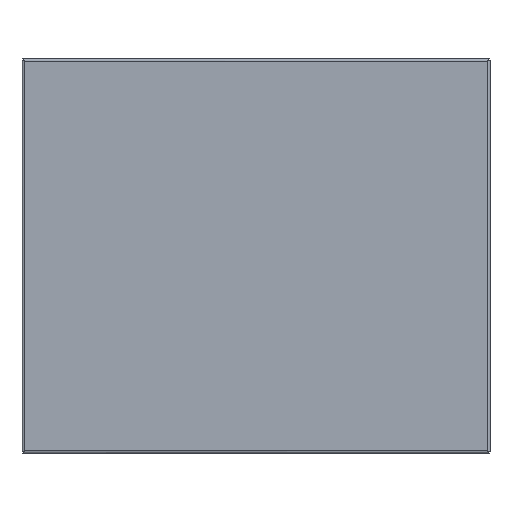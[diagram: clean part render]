
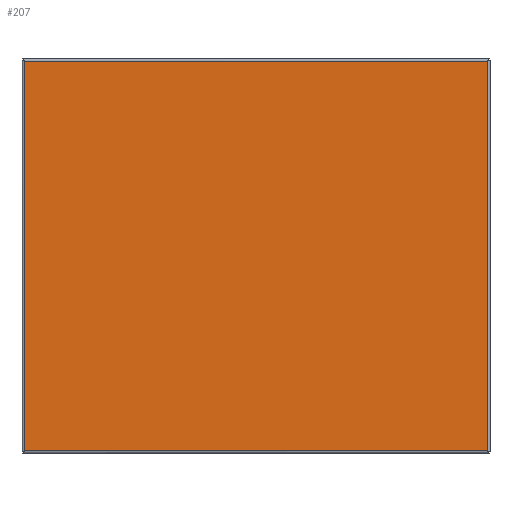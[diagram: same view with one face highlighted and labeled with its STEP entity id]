
A CAD part, front view. The second image highlights one B-rep face of the part: STEP entity #207.
In plain terms, the highlighted planar face has unit normal (0, -1, 0).
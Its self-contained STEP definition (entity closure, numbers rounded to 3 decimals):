
#70 = ORIENTED_EDGE ( 'NONE', *, *, #5171, .F. ) ;
#106 = DIRECTION ( 'NONE',  ( 0., 0., 1. ) ) ;
#207 = ADVANCED_FACE ( 'NONE', ( #5282 ), #5751, .F. ) ;
#728 = VECTOR ( 'NONE', #106, 1000. ) ;
#735 = LINE ( 'NONE', #2816, #728 ) ;
#1085 = EDGE_CURVE ( 'NONE', #5558, #2231, #4397, .T. ) ;
#1206 = AXIS2_PLACEMENT_3D ( 'NONE', #4066, #3973, #2287 ) ;
#1303 = VECTOR ( 'NONE', #3188, 1000. ) ;
#1315 = LINE ( 'NONE', #2709, #1303 ) ;
#1481 = CARTESIAN_POINT ( 'NONE',  ( 0., 0., -247. ) ) ;
#1498 = DIRECTION ( 'NONE',  ( -1., 0., 0. ) ) ;
#1704 = CARTESIAN_POINT ( 'NONE',  ( 293.5, 0., -247. ) ) ;
#1712 = CARTESIAN_POINT ( 'NONE',  ( 0., 0., 247. ) ) ;
#1968 = LINE ( 'NONE', #1712, #1995 ) ;
#1995 = VECTOR ( 'NONE', #4061, 1000. ) ;
#2016 = EDGE_LOOP ( 'NONE', ( #5190, #4210, #3838, #70 ) ) ;
#2209 = CARTESIAN_POINT ( 'NONE',  ( -293.5, 0., 247. ) ) ;
#2231 = VERTEX_POINT ( 'NONE', #2499 ) ;
#2287 = DIRECTION ( 'NONE',  ( 0., 0., 1. ) ) ;
#2499 = CARTESIAN_POINT ( 'NONE',  ( -293.5, 0., -247. ) ) ;
#2709 = CARTESIAN_POINT ( 'NONE',  ( 293.5, 0., 0. ) ) ;
#2816 = CARTESIAN_POINT ( 'NONE',  ( -293.5, 0., 0. ) ) ;
#3118 = CARTESIAN_POINT ( 'NONE',  ( 293.5, 0., 247. ) ) ;
#3188 = DIRECTION ( 'NONE',  ( 0., 0., -1. ) ) ;
#3258 = VERTEX_POINT ( 'NONE', #3118 ) ;
#3838 = ORIENTED_EDGE ( 'NONE', *, *, #3854, .F. ) ;
#3854 = EDGE_CURVE ( 'NONE', #5844, #3258, #1968, .T. ) ;
#3973 = DIRECTION ( 'NONE',  ( 0., 1., 0. ) ) ;
#4061 = DIRECTION ( 'NONE',  ( 1., 0., 0. ) ) ;
#4066 = CARTESIAN_POINT ( 'NONE',  ( 0., 0., 0. ) ) ;
#4210 = ORIENTED_EDGE ( 'NONE', *, *, #4529, .F. ) ;
#4397 = LINE ( 'NONE', #1481, #4435 ) ;
#4435 = VECTOR ( 'NONE', #1498, 1000. ) ;
#4529 = EDGE_CURVE ( 'NONE', #3258, #5558, #1315, .T. ) ;
#5171 = EDGE_CURVE ( 'NONE', #2231, #5844, #735, .T. ) ;
#5190 = ORIENTED_EDGE ( 'NONE', *, *, #1085, .F. ) ;
#5282 = FACE_OUTER_BOUND ( 'NONE', #2016, .T. ) ;
#5558 = VERTEX_POINT ( 'NONE', #1704 ) ;
#5751 = PLANE ( 'NONE',  #1206 ) ;
#5844 = VERTEX_POINT ( 'NONE', #2209 ) ;
